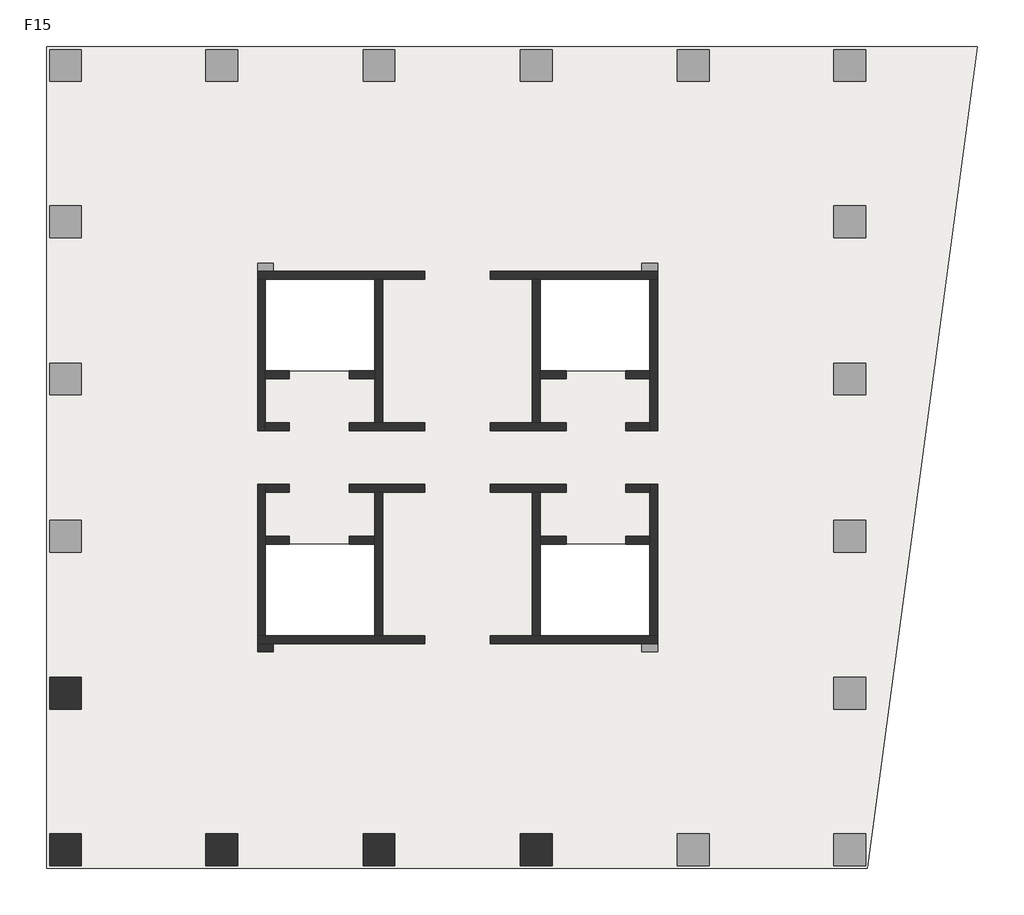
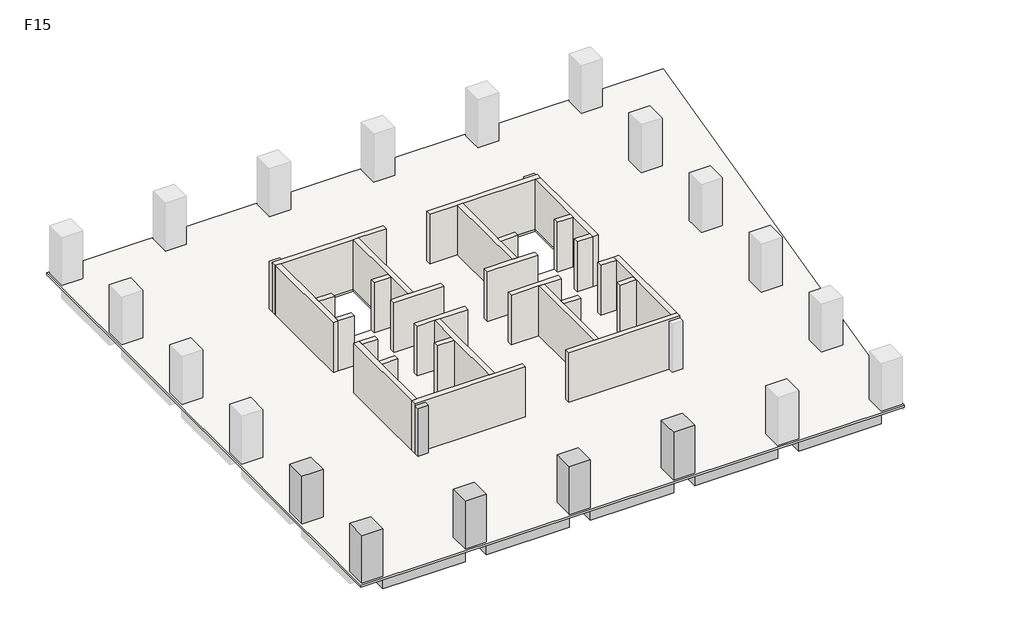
# One storey, part 1 of 2: 28 walls, 6 columns, 5 beams, 1 slab.
"""IFC4 building model written with IfcOpenShell, lengths in millimetres."""

from ifc_helpers import new_model, si_unit, frame, origin, place, context, project, spatial, polyline, outline, extrude, faceted_brep, element, save

model = new_model("IFC4")

# Units and contexts
model_context = context("Model", 3, world=origin())
ifc_project = project(units=[si_unit("LENGTHUNIT", "METRE", prefix="MILLI")], contexts=[model_context])

# Site, building, storey
site = spatial("IfcSite", under=ifc_project)
building = spatial("IfcBuilding", under=site)
storey = spatial("IfcBuildingStorey", under=building, Name="F15", Elevation=60000.0)

# Beams
placement = place(None, origin())
element("IfcBeam", 1, ObjectType="混凝土 - 矩形梁 : KL(5)-800x1000", at=placement, inside=storey, context=model_context, shape_type="SweptSolid", body=[
    extrude(outline(polyline([(-12472.6742169, -13948.9501342), (-12472.6742169, -13148.9501342), (-6222.6742169, -13148.9501342), (-6222.6742169, -13948.9501342), (-12472.6742169, -13948.9501342)])), frame((0.0, 0.0, 59000.0), z_axis=(0.0, 0.0, 1.0), x_axis=(1.0, 0.0, 0.0)), (0.0, 0.0, 1.0), 840.0),
    extrude(outline(polyline([(25327.3257831, -13148.9501342), (25327.3257831, -13948.9501342), (19077.3257831, -13948.9501342), (19077.3257831, -13148.9501342), (25327.3257831, -13148.9501342)])), frame((0.0, 0.0, 59000.0), z_axis=(0.0, 0.0, 1.0), x_axis=(1.0, 0.0, 0.0)), (0.0, 0.0, 1.0), 840.0),
    extrude(outline(polyline([(-4622.6742169, -13948.9501342), (-4622.6742169, -13148.9501342), (1677.3257831, -13148.9501342), (1677.3257831, -13948.9501342), (-4622.6742169, -13948.9501342)])), frame((0.0, 0.0, 59000.0), z_axis=(0.0, 0.0, 1.0), x_axis=(1.0, 0.0, 0.0)), (0.0, 0.0, 1.0), 840.0),
    extrude(outline(polyline([(3277.3257831, -13948.9501342), (3277.3257831, -13148.9501342), (9577.3257831, -13148.9501342), (9577.3257831, -13948.9501342), (3277.3257831, -13948.9501342)])), frame((0.0, 0.0, 59000.0), z_axis=(0.0, 0.0, 1.0), x_axis=(1.0, 0.0, 0.0)), (0.0, 0.0, 1.0), 840.0),
    extrude(outline(polyline([(11177.3257831, -13948.9501342), (11177.3257831, -13148.9501342), (17477.3257831, -13148.9501342), (17477.3257831, -13948.9501342), (11177.3257831, -13948.9501342)])), frame((0.0, 0.0, 59000.0), z_axis=(0.0, 0.0, 1.0), x_axis=(1.0, 0.0, 0.0)), (0.0, 0.0, 1.0), 840.0),
])
element("IfcBeam", 2, ObjectType="混凝土 - 矩形梁 : L1-800x500", at=placement, inside=storey, context=model_context, shape_type="Brep", body=[
    faceted_brep([(-12472.6742169, -5512.1353397, 59500.0), (-3746.9473979, -3341.556529, 59500.0), (-3173.6696907, -3198.9501342, 59500.0), (-3173.6696907, -3198.9501342, 59840.0), (-3746.9473979, -3341.556529, 59840.0), (-12472.6742169, -5512.1353397, 59840.0), (-3622.6742169, -3198.9501342, 59500.0), (-12472.6742169, -4687.7549784, 59500.0), (-3622.6742169, -2486.2624411, 59500.0), (-3622.6742169, -2798.9501342, 59500.0), (-12472.6742169, -4687.7549784, 59840.0), (-3622.6742169, -2486.2624411, 59840.0), (-3622.6742169, -3198.9501342, 59840.0)], [[[0, 1, 2, 3, 4, 5]], [[6, 2, 1, 0, 7, 8, 9]], [[8, 7, 10, 11]], [[2, 6, 12, 3]], [[9, 8, 11, 12, 6]], [[7, 0, 5, 10]], [[5, 4, 3, 12, 11, 10]]]),
])
element("IfcBeam", 3, ObjectType="混凝土 - 矩形梁 : L1-800x500", at=placement, inside=storey, context=model_context, shape_type="SweptSolid", body=[
    extrude(outline(polyline([(-3746.9473979, -3341.556529), (-3173.6696907, -3198.9501342), (-2898.7618154, -3198.9501342), (-4843.6893517, -12348.9501342), (-5661.5624638, -12348.9501342), (-3746.9473979, -3341.556529)])), frame((0.0, 0.0, 59500.0), z_axis=(0.0, 0.0, 1.0), x_axis=(1.0, 0.0, 0.0)), (0.0, 0.0, 1.0), 340.0),
])
element("IfcBeam", 4, ObjectType="混凝土 - 矩形梁 : L1-800x500", at=placement, inside=storey, context=model_context, shape_type="SweptSolid", body=[
    extrude(outline(polyline([(2877.3257831, -12348.9501342), (2077.3257831, -12348.9501342), (2077.3257831, -2798.9501342), (2877.3257831, -2798.9501342), (2877.3257831, -12348.9501342)])), frame((0.0, 0.0, 59500.0), z_axis=(0.0, 0.0, 1.0), x_axis=(1.0, 0.0, 0.0)), (0.0, 0.0, 1.0), 340.0),
])
element("IfcBeam", 5, ObjectType="混凝土 - 矩形梁 : L1-800x500", at=placement, inside=storey, context=model_context, shape_type="SweptSolid", body=[
    extrude(outline(polyline([(10777.3257831, -12348.9501342), (9977.3257831, -12348.9501342), (9977.3257831, -2798.9501342), (10777.3257831, -2798.9501342), (10777.3257831, -12348.9501342)])), frame((0.0, 0.0, 59500.0), z_axis=(0.0, 0.0, 1.0), x_axis=(1.0, 0.0, 0.0)), (0.0, 0.0, 1.0), 340.0),
])

# Columns
element("IfcColumn", 6, ObjectType="混凝土 - 矩形 - 柱 : Z1-1600x1600", at=placement, inside=storey, context=model_context, shape_type="Brep", body=[
    faceted_brep([(-12472.6742169, -4498.9501342, 60000.0), (-12472.6742169, -6098.9501342, 60000.0), (-14072.6742169, -6098.9501342, 60000.0), (-14072.6742169, -4498.9501342, 60000.0), (-12472.6742169, -4498.9501342, 63840.0), (-12472.6742169, -6098.9501342, 63840.0), (-13272.6742169, -6098.9501342, 63840.0), (-14072.6742169, -6098.9501342, 63840.0), (-14072.6742169, -6098.9501342, 63000.0), (-14072.6742169, -4498.9501342, 63840.0), (-14072.6742169, -4498.9501342, 63000.0), (-13272.6742169, -4498.9501342, 63840.0)], [[[0, 1, 2, 3]], [[1, 0, 4, 5]], [[2, 1, 5, 6, 7, 8]], [[3, 2, 8, 7, 9, 10]], [[0, 3, 10, 9, 11, 4]], [[5, 4, 11, 9, 7, 6]]]),
])
element("IfcColumn", 7, ObjectType="混凝土 - 矩形 - 柱 : Z1-1600x1600", at=placement, inside=storey, context=model_context, shape_type="SweptSolid", body=[
    extrude(outline(polyline([(-12472.6742169, -12348.9501342), (-12472.6742169, -13948.9501342), (-14072.6742169, -13948.9501342), (-14072.6742169, -12348.9501342), (-12472.6742169, -12348.9501342)])), frame((0.0, 0.0, 60000.0), z_axis=(0.0, 0.0, 1.0), x_axis=(1.0, 0.0, 0.0)), (0.0, 0.0, 1.0), 3840.0),
])
element("IfcColumn", 8, ObjectType="混凝土 - 矩形 - 柱 : Z1-1600x1600", at=placement, inside=storey, context=model_context, shape_type="Brep", body=[
    faceted_brep([(-4622.6742169, -12348.9501342, 60000.0), (-4622.6742169, -13948.9501342, 60000.0), (-6222.6742169, -13948.9501342, 60000.0), (-6222.6742169, -12348.9501342, 60000.0), (-4622.6742169, -12348.9501342, 63840.0), (-4622.6742169, -13148.9501342, 63840.0), (-4622.6742169, -13948.9501342, 63840.0), (-4622.6742169, -13948.9501342, 63000.0), (-6222.6742169, -13948.9501342, 63840.0), (-6222.6742169, -13948.9501342, 63000.0), (-6222.6742169, -13148.9501342, 63840.0), (-6222.6742169, -12348.9501342, 63840.0)], [[[0, 1, 2, 3]], [[1, 0, 4, 5, 6, 7]], [[2, 1, 7, 6, 8, 9]], [[3, 2, 9, 8, 10, 11]], [[0, 3, 11, 4]], [[6, 5, 4, 11, 10, 8]]]),
])
element("IfcColumn", 9, ObjectType="混凝土 - 矩形 - 柱 : Z1-1600x1600", at=placement, inside=storey, context=model_context, shape_type="Brep", body=[
    faceted_brep([(3277.3257831, -12348.9501342, 60000.0), (3277.3257831, -13948.9501342, 60000.0), (1677.3257831, -13948.9501342, 60000.0), (1677.3257831, -12348.9501342, 60000.0), (3277.3257831, -12348.9501342, 63840.0), (3277.3257831, -13148.9501342, 63840.0), (3277.3257831, -13948.9501342, 63840.0), (3277.3257831, -13948.9501342, 63000.0), (1677.3257831, -13948.9501342, 63840.0), (1677.3257831, -13948.9501342, 63000.0), (1677.3257831, -13148.9501342, 63840.0), (1677.3257831, -12348.9501342, 63840.0)], [[[0, 1, 2, 3]], [[1, 0, 4, 5, 6, 7]], [[2, 1, 7, 6, 8, 9]], [[3, 2, 9, 8, 10, 11]], [[0, 3, 11, 4]], [[6, 5, 4, 11, 10, 8]]]),
])
element("IfcColumn", 10, ObjectType="混凝土 - 矩形 - 柱 : Z1-1600x1600", at=placement, inside=storey, context=model_context, shape_type="Brep", body=[
    faceted_brep([(11177.3257831, -12348.9501342, 60000.0), (11177.3257831, -13948.9501342, 60000.0), (9577.3257831, -13948.9501342, 60000.0), (9577.3257831, -12348.9501342, 60000.0), (11177.3257831, -12348.9501342, 63840.0), (11177.3257831, -13148.9501342, 63840.0), (11177.3257831, -13948.9501342, 63840.0), (11177.3257831, -13948.9501342, 63000.0), (9577.3257831, -13948.9501342, 63840.0), (9577.3257831, -13948.9501342, 63000.0), (9577.3257831, -13148.9501342, 63840.0), (9577.3257831, -12348.9501342, 63840.0)], [[[0, 1, 2, 3]], [[1, 0, 4, 5, 6, 7]], [[2, 1, 7, 6, 8, 9]], [[3, 2, 9, 8, 10, 11]], [[0, 3, 11, 4]], [[6, 5, 4, 11, 10, 8]]]),
])
element("IfcColumn", 11, ObjectType="混凝土 - 矩形 - 柱 : Z2-800x800", at=placement, inside=storey, context=model_context, shape_type="SweptSolid", body=[
    extrude(outline(polyline([(-2822.6742169, -3198.9501342), (-3622.6742169, -3198.9501342), (-3622.6742169, -2798.9501342), (-2822.6742169, -2798.9501342), (-2822.6742169, -3198.9501342)])), frame((0.0, 0.0, 60000.0), z_axis=(0.0, 0.0, 1.0), x_axis=(1.0, 0.0, 0.0)), (0.0, 0.0, 1.0), 3840.0),
])

# Slab
element("IfcSlab", 12, ObjectType="LB-160", at=placement, inside=storey, context=model_context, shape_type="Brep", body=[
    faceted_brep([(32549.4477343, 27201.0498658, 59840.0), (32422.0087099, 26251.0498658, 59840.0), (27029.3257831, -13948.9501342, 59840.0), (27011.0393465, -14085.2672073, 59840.0), (-14222.6742169, -14085.2672073, 59840.0), (-14222.6742169, 27201.0498658, 59840.0), (2277.3257831, 15501.0498658, 59840.0), (-3222.6742169, 15501.0498658, 59840.0), (-3222.6742169, 10901.0498658, 59840.0), (2277.3257831, 10901.0498658, 59840.0), (2277.3257831, 2201.0498658, 59840.0), (-3222.6742169, 2201.0498658, 59840.0), (-3222.6742169, -2398.9501342, 59840.0), (2277.3257831, -2398.9501342, 59840.0), (16077.3257831, 2201.0498658, 59840.0), (10577.3257831, 2201.0498658, 59840.0), (10577.3257831, -2398.9501342, 59840.0), (16077.3257831, -2398.9501342, 59840.0), (16077.3257831, 15501.0498658, 59840.0), (10577.3257831, 15501.0498658, 59840.0), (10577.3257831, 10901.0498658, 59840.0), (16077.3257831, 10901.0498658, 59840.0), (32549.4477343, 27201.0498658, 60000.0), (-14222.6742169, 27201.0498658, 60000.0), (-14222.6742169, -14085.2672073, 60000.0), (27011.0393465, -14085.2672073, 60000.0), (2277.3257831, 15501.0498658, 60000.0), (2277.3257831, 10901.0498658, 60000.0), (-3222.6742169, 10901.0498658, 60000.0), (-3222.6742169, 15501.0498658, 60000.0), (2277.3257831, 2201.0498658, 60000.0), (2277.3257831, -2398.9501342, 60000.0), (-3222.6742169, -2398.9501342, 60000.0), (-3222.6742169, 2201.0498658, 60000.0), (16077.3257831, 2201.0498658, 60000.0), (16077.3257831, -2398.9501342, 60000.0), (10577.3257831, -2398.9501342, 60000.0), (10577.3257831, 2201.0498658, 60000.0), (16077.3257831, 15501.0498658, 60000.0), (16077.3257831, 10901.0498658, 60000.0), (10577.3257831, 10901.0498658, 60000.0), (10577.3257831, 15501.0498658, 60000.0)], [[[0, 1, 2, 3, 4, 5], [6, 7, 8, 9], [10, 11, 12, 13], [14, 15, 16, 17], [18, 19, 20, 21]], [[22, 23, 24, 25], [26, 27, 28, 29], [30, 31, 32, 33], [34, 35, 36, 37], [38, 39, 40, 41]], [[3, 2, 1, 0, 22, 25]], [[4, 3, 25, 24]], [[5, 4, 24, 23]], [[0, 5, 23, 22]], [[7, 6, 26, 29]], [[8, 7, 29, 28]], [[9, 8, 28, 27]], [[6, 9, 27, 26]], [[11, 10, 30, 33]], [[12, 11, 33, 32]], [[13, 12, 32, 31]], [[10, 13, 31, 30]], [[15, 14, 34, 37]], [[16, 15, 37, 36]], [[17, 16, 36, 35]], [[14, 17, 35, 34]], [[19, 18, 38, 41]], [[20, 19, 41, 40]], [[21, 20, 40, 39]], [[18, 21, 39, 38]]]),
])

# Walls
element("IfcWall", 13, ObjectType="剪力墙-400", at=placement, inside=storey, context=model_context, shape_type="Brep", body=[
    faceted_brep([(-3622.6742169, 15501.0498658, 60000.0), (-3222.6742169, 15501.0498658, 60000.0), (2277.3257831, 15501.0498658, 60000.0), (2677.3257831, 15501.0498658, 60000.0), (4777.3257831, 15501.0498658, 60000.0), (4777.3257831, 15501.0498658, 64000.0), (2677.3257831, 15501.0498658, 64000.0), (2277.3257831, 15501.0498658, 64000.0), (-3222.6742169, 15501.0498658, 64000.0), (-3622.6742169, 15501.0498658, 64000.0), (-3622.6742169, 15901.0498658, 60000.0), (-3622.6742169, 15901.0498658, 63840.0), (-3622.6742169, 15901.0498658, 64000.0), (4777.3257831, 15901.0498658, 64000.0), (4777.3257831, 15901.0498658, 60000.0), (-2822.6742169, 15901.0498658, 60000.0)], [[[0, 1, 2, 3, 4, 5, 6, 7, 8, 9]], [[10, 11, 12, 13, 14, 15]], [[4, 3, 2, 1, 0, 10, 15, 14]], [[5, 4, 14, 13]], [[9, 8, 7, 6, 5, 13, 12]], [[0, 9, 12, 11, 10]]]),
])
element("IfcWall", 14, ObjectType="剪力墙-400", at=placement, inside=storey, context=model_context, shape_type="Brep", body=[
    faceted_brep([(2277.3257831, 15501.0498658, 60000.0), (2277.3257831, 10901.0498658, 60000.0), (2277.3257831, 10501.0498658, 60000.0), (2277.3257831, 8301.0498658, 60000.0), (2277.3257831, 8301.0498658, 64000.0), (2277.3257831, 10501.0498658, 64000.0), (2277.3257831, 10901.0498658, 64000.0), (2277.3257831, 15501.0498658, 64000.0), (2677.3257831, 15501.0498658, 60000.0), (2677.3257831, 15501.0498658, 64000.0), (2677.3257831, 8301.0498658, 64000.0), (2677.3257831, 8301.0498658, 60000.0)], [[[0, 1, 2, 3, 4, 5, 6, 7]], [[8, 9, 10, 11]], [[3, 2, 1, 0, 8, 11]], [[7, 6, 5, 4, 10, 9]], [[0, 7, 9, 8]], [[4, 3, 11, 10]]]),
])
element("IfcWall", 15, ObjectType="剪力墙-400", at=placement, inside=storey, context=model_context, shape_type="Brep", body=[
    faceted_brep([(-3622.6742169, 15501.0498658, 60000.0), (-3622.6742169, 7901.0498658, 60000.0), (-3622.6742169, 7901.0498658, 64000.0), (-3622.6742169, 15501.0498658, 64000.0), (-3222.6742169, 15501.0498658, 60000.0), (-3222.6742169, 15501.0498658, 64000.0), (-3222.6742169, 10901.0498658, 64000.0), (-3222.6742169, 10501.0498658, 64000.0), (-3222.6742169, 8301.0498658, 64000.0), (-3222.6742169, 7901.0498658, 64000.0), (-3222.6742169, 7901.0498658, 60000.0), (-3222.6742169, 8301.0498658, 60000.0), (-3222.6742169, 10501.0498658, 60000.0), (-3222.6742169, 10901.0498658, 60000.0)], [[[0, 1, 2, 3]], [[4, 5, 6, 7, 8, 9, 10, 11, 12, 13]], [[1, 0, 4, 13, 12, 11, 10]], [[3, 2, 9, 8, 7, 6, 5]], [[0, 3, 5, 4]], [[2, 1, 10, 9]]]),
])
element("IfcWall", 16, ObjectType="剪力墙-400", at=placement, inside=storey, context=model_context, shape_type="SweptSolid", body=[
    extrude(outline(polyline([(-2022.6742169, 7901.0498658), (-3222.6742169, 7901.0498658), (-3222.6742169, 8301.0498658), (-2022.6742169, 8301.0498658), (-2022.6742169, 7901.0498658)])), frame((0.0, 0.0, 60000.0), z_axis=(0.0, 0.0, 1.0), x_axis=(1.0, 0.0, 0.0)), (0.0, 0.0, 1.0), 4000.0),
])
element("IfcWall", 17, ObjectType="剪力墙-400", at=placement, inside=storey, context=model_context, shape_type="Brep", body=[
    faceted_brep([(977.3257831, 7901.0498658, 60000.0), (4777.3257831, 7901.0498658, 60000.0), (4777.3257831, 7901.0498658, 64000.0), (977.3257831, 7901.0498658, 64000.0), (977.3257831, 8301.0498658, 60000.0), (977.3257831, 8301.0498658, 64000.0), (2277.3257831, 8301.0498658, 64000.0), (2677.3257831, 8301.0498658, 64000.0), (4777.3257831, 8301.0498658, 64000.0), (4777.3257831, 8301.0498658, 60000.0), (2677.3257831, 8301.0498658, 60000.0), (2277.3257831, 8301.0498658, 60000.0)], [[[0, 1, 2, 3]], [[4, 5, 6, 7, 8, 9, 10, 11]], [[1, 0, 4, 11, 10, 9]], [[2, 1, 9, 8]], [[3, 2, 8, 7, 6, 5]], [[0, 3, 5, 4]]]),
])
element("IfcWall", 18, ObjectType="剪力墙-400", at=placement, inside=storey, context=model_context, shape_type="SweptSolid", body=[
    extrude(outline(polyline([(-2022.6742169, 10501.0498658), (-3222.6742169, 10501.0498658), (-3222.6742169, 10901.0498658), (-2022.6742169, 10901.0498658), (-2022.6742169, 10501.0498658)])), frame((0.0, 0.0, 60000.0), z_axis=(0.0, 0.0, 1.0), x_axis=(1.0, 0.0, 0.0)), (0.0, 0.0, 1.0), 4000.0),
])
element("IfcWall", 19, ObjectType="剪力墙-400", at=placement, inside=storey, context=model_context, shape_type="SweptSolid", body=[
    extrude(outline(polyline([(2277.3257831, 10501.0498658), (977.3257831, 10501.0498658), (977.3257831, 10901.0498658), (2277.3257831, 10901.0498658), (2277.3257831, 10501.0498658)])), frame((0.0, 0.0, 60000.0), z_axis=(0.0, 0.0, 1.0), x_axis=(1.0, 0.0, 0.0)), (0.0, 0.0, 1.0), 4000.0),
])
element("IfcWall", 20, ObjectType="剪力墙-400", at=placement, inside=storey, context=model_context, shape_type="Brep", body=[
    faceted_brep([(16477.3257831, 15901.0498658, 60000.0), (15677.3257831, 15901.0498658, 60000.0), (8077.3257831, 15901.0498658, 60000.0), (8077.3257831, 15901.0498658, 64000.0), (16477.3257831, 15901.0498658, 64000.0), (16477.3257831, 15901.0498658, 63840.0), (16477.3257831, 15501.0498658, 60000.0), (16477.3257831, 15501.0498658, 64000.0), (16077.3257831, 15501.0498658, 64000.0), (10577.3257831, 15501.0498658, 64000.0), (10177.3257831, 15501.0498658, 64000.0), (8077.3257831, 15501.0498658, 64000.0), (8077.3257831, 15501.0498658, 60000.0), (10177.3257831, 15501.0498658, 60000.0), (10577.3257831, 15501.0498658, 60000.0), (16077.3257831, 15501.0498658, 60000.0)], [[[0, 1, 2, 3, 4, 5]], [[6, 7, 8, 9, 10, 11, 12, 13, 14, 15]], [[2, 1, 0, 6, 15, 14, 13, 12]], [[3, 2, 12, 11]], [[4, 3, 11, 10, 9, 8, 7]], [[0, 5, 4, 7, 6]]]),
])
element("IfcWall", 21, ObjectType="剪力墙-400", at=placement, inside=storey, context=model_context, shape_type="Brep", body=[
    faceted_brep([(10177.3257831, 15501.0498658, 60000.0), (10177.3257831, 8301.0498658, 60000.0), (10177.3257831, 8301.0498658, 64000.0), (10177.3257831, 15501.0498658, 64000.0), (10577.3257831, 15501.0498658, 60000.0), (10577.3257831, 15501.0498658, 64000.0), (10577.3257831, 10901.0498658, 64000.0), (10577.3257831, 10501.0498658, 64000.0), (10577.3257831, 8301.0498658, 64000.0), (10577.3257831, 8301.0498658, 60000.0), (10577.3257831, 10501.0498658, 60000.0), (10577.3257831, 10901.0498658, 60000.0)], [[[0, 1, 2, 3]], [[4, 5, 6, 7, 8, 9, 10, 11]], [[1, 0, 4, 11, 10, 9]], [[3, 2, 8, 7, 6, 5]], [[0, 3, 5, 4]], [[2, 1, 9, 8]]]),
])
element("IfcWall", 22, ObjectType="剪力墙-400", at=placement, inside=storey, context=model_context, shape_type="Brep", body=[
    faceted_brep([(16077.3257831, 15501.0498658, 60000.0), (16077.3257831, 10901.0498658, 60000.0), (16077.3257831, 10501.0498658, 60000.0), (16077.3257831, 8301.0498658, 60000.0), (16077.3257831, 7901.0498658, 60000.0), (16077.3257831, 7901.0498658, 64000.0), (16077.3257831, 8301.0498658, 64000.0), (16077.3257831, 10501.0498658, 64000.0), (16077.3257831, 10901.0498658, 64000.0), (16077.3257831, 15501.0498658, 64000.0), (16477.3257831, 15501.0498658, 60000.0), (16477.3257831, 15501.0498658, 64000.0), (16477.3257831, 7901.0498658, 64000.0), (16477.3257831, 7901.0498658, 60000.0)], [[[0, 1, 2, 3, 4, 5, 6, 7, 8, 9]], [[10, 11, 12, 13]], [[4, 3, 2, 1, 0, 10, 13]], [[9, 8, 7, 6, 5, 12, 11]], [[0, 9, 11, 10]], [[5, 4, 13, 12]]]),
])
element("IfcWall", 23, ObjectType="剪力墙-400", at=placement, inside=storey, context=model_context, shape_type="SweptSolid", body=[
    extrude(outline(polyline([(14877.3257831, 8301.0498658), (16077.3257831, 8301.0498658), (16077.3257831, 7901.0498658), (14877.3257831, 7901.0498658), (14877.3257831, 8301.0498658)])), frame((0.0, 0.0, 60000.0), z_axis=(0.0, 0.0, 1.0), x_axis=(1.0, 0.0, 0.0)), (0.0, 0.0, 1.0), 4000.0),
])
element("IfcWall", 24, ObjectType="剪力墙-400", at=placement, inside=storey, context=model_context, shape_type="Brep", body=[
    faceted_brep([(11877.3257831, 8301.0498658, 60000.0), (10577.3257831, 8301.0498658, 60000.0), (10177.3257831, 8301.0498658, 60000.0), (8077.3257831, 8301.0498658, 60000.0), (8077.3257831, 8301.0498658, 64000.0), (10177.3257831, 8301.0498658, 64000.0), (10577.3257831, 8301.0498658, 64000.0), (11877.3257831, 8301.0498658, 64000.0), (11877.3257831, 7901.0498658, 60000.0), (11877.3257831, 7901.0498658, 64000.0), (8077.3257831, 7901.0498658, 64000.0), (8077.3257831, 7901.0498658, 60000.0)], [[[0, 1, 2, 3, 4, 5, 6, 7]], [[8, 9, 10, 11]], [[3, 2, 1, 0, 8, 11]], [[4, 3, 11, 10]], [[7, 6, 5, 4, 10, 9]], [[0, 7, 9, 8]]]),
])
element("IfcWall", 25, ObjectType="剪力墙-400", at=placement, inside=storey, context=model_context, shape_type="SweptSolid", body=[
    extrude(outline(polyline([(14877.3257831, 10901.0498658), (16077.3257831, 10901.0498658), (16077.3257831, 10501.0498658), (14877.3257831, 10501.0498658), (14877.3257831, 10901.0498658)])), frame((0.0, 0.0, 60000.0), z_axis=(0.0, 0.0, 1.0), x_axis=(1.0, 0.0, 0.0)), (0.0, 0.0, 1.0), 4000.0),
])
element("IfcWall", 26, ObjectType="剪力墙-400", at=placement, inside=storey, context=model_context, shape_type="SweptSolid", body=[
    extrude(outline(polyline([(10577.3257831, 10901.0498658), (11877.3257831, 10901.0498658), (11877.3257831, 10501.0498658), (10577.3257831, 10501.0498658), (10577.3257831, 10901.0498658)])), frame((0.0, 0.0, 60000.0), z_axis=(0.0, 0.0, 1.0), x_axis=(1.0, 0.0, 0.0)), (0.0, 0.0, 1.0), 4000.0),
])
element("IfcWall", 27, ObjectType="剪力墙-400", at=placement, inside=storey, context=model_context, shape_type="Brep", body=[
    faceted_brep([(-3622.6742169, -2798.9501342, 60000.0), (-2822.6742169, -2798.9501342, 60000.0), (4777.3257831, -2798.9501342, 60000.0), (4777.3257831, -2798.9501342, 64000.0), (-3622.6742169, -2798.9501342, 64000.0), (-3622.6742169, -2798.9501342, 63840.0), (-3622.6742169, -2398.9501342, 60000.0), (-3622.6742169, -2398.9501342, 64000.0), (-3222.6742169, -2398.9501342, 64000.0), (2277.3257831, -2398.9501342, 64000.0), (2677.3257831, -2398.9501342, 64000.0), (4777.3257831, -2398.9501342, 64000.0), (4777.3257831, -2398.9501342, 60000.0), (2677.3257831, -2398.9501342, 60000.0), (2277.3257831, -2398.9501342, 60000.0), (-3222.6742169, -2398.9501342, 60000.0)], [[[0, 1, 2, 3, 4, 5]], [[6, 7, 8, 9, 10, 11, 12, 13, 14, 15]], [[2, 1, 0, 6, 15, 14, 13, 12]], [[3, 2, 12, 11]], [[4, 3, 11, 10, 9, 8, 7]], [[0, 5, 4, 7, 6]]]),
])
element("IfcWall", 28, ObjectType="剪力墙-400", at=placement, inside=storey, context=model_context, shape_type="Brep", body=[
    faceted_brep([(2677.3257831, -2398.9501342, 60000.0), (2677.3257831, 4801.0498658, 60000.0), (2677.3257831, 4801.0498658, 64000.0), (2677.3257831, -2398.9501342, 64000.0), (2277.3257831, -2398.9501342, 60000.0), (2277.3257831, -2398.9501342, 64000.0), (2277.3257831, 2201.0498658, 64000.0), (2277.3257831, 2601.0498658, 64000.0), (2277.3257831, 4801.0498658, 64000.0), (2277.3257831, 4801.0498658, 60000.0), (2277.3257831, 2601.0498658, 60000.0), (2277.3257831, 2201.0498658, 60000.0)], [[[0, 1, 2, 3]], [[4, 5, 6, 7, 8, 9, 10, 11]], [[1, 0, 4, 11, 10, 9]], [[3, 2, 8, 7, 6, 5]], [[0, 3, 5, 4]], [[2, 1, 9, 8]]]),
])
element("IfcWall", 29, ObjectType="剪力墙-400", at=placement, inside=storey, context=model_context, shape_type="Brep", body=[
    faceted_brep([(-3222.6742169, -2398.9501342, 60000.0), (-3222.6742169, 2201.0498658, 60000.0), (-3222.6742169, 2601.0498658, 60000.0), (-3222.6742169, 4801.0498658, 60000.0), (-3222.6742169, 5201.0498658, 60000.0), (-3222.6742169, 5201.0498658, 64000.0), (-3222.6742169, 4801.0498658, 64000.0), (-3222.6742169, 2601.0498658, 64000.0), (-3222.6742169, 2201.0498658, 64000.0), (-3222.6742169, -2398.9501342, 64000.0), (-3622.6742169, -2398.9501342, 60000.0), (-3622.6742169, -2398.9501342, 64000.0), (-3622.6742169, 5201.0498658, 64000.0), (-3622.6742169, 5201.0498658, 60000.0)], [[[0, 1, 2, 3, 4, 5, 6, 7, 8, 9]], [[10, 11, 12, 13]], [[4, 3, 2, 1, 0, 10, 13]], [[9, 8, 7, 6, 5, 12, 11]], [[0, 9, 11, 10]], [[5, 4, 13, 12]]]),
])
element("IfcWall", 30, ObjectType="剪力墙-400", at=placement, inside=storey, context=model_context, shape_type="SweptSolid", body=[
    extrude(outline(polyline([(-2022.6742169, 4801.0498658), (-3222.6742169, 4801.0498658), (-3222.6742169, 5201.0498658), (-2022.6742169, 5201.0498658), (-2022.6742169, 4801.0498658)])), frame((0.0, 0.0, 60000.0), z_axis=(0.0, 0.0, 1.0), x_axis=(1.0, 0.0, 0.0)), (0.0, 0.0, 1.0), 4000.0),
])
element("IfcWall", 31, ObjectType="剪力墙-400", at=placement, inside=storey, context=model_context, shape_type="Brep", body=[
    faceted_brep([(977.3257831, 4801.0498658, 60000.0), (2277.3257831, 4801.0498658, 60000.0), (2677.3257831, 4801.0498658, 60000.0), (4777.3257831, 4801.0498658, 60000.0), (4777.3257831, 4801.0498658, 64000.0), (2677.3257831, 4801.0498658, 64000.0), (2277.3257831, 4801.0498658, 64000.0), (977.3257831, 4801.0498658, 64000.0), (977.3257831, 5201.0498658, 60000.0), (977.3257831, 5201.0498658, 64000.0), (4777.3257831, 5201.0498658, 64000.0), (4777.3257831, 5201.0498658, 60000.0)], [[[0, 1, 2, 3, 4, 5, 6, 7]], [[8, 9, 10, 11]], [[3, 2, 1, 0, 8, 11]], [[4, 3, 11, 10]], [[7, 6, 5, 4, 10, 9]], [[0, 7, 9, 8]]]),
])
element("IfcWall", 32, ObjectType="剪力墙-400", at=placement, inside=storey, context=model_context, shape_type="SweptSolid", body=[
    extrude(outline(polyline([(-2022.6742169, 2201.0498658), (-3222.6742169, 2201.0498658), (-3222.6742169, 2601.0498658), (-2022.6742169, 2601.0498658), (-2022.6742169, 2201.0498658)])), frame((0.0, 0.0, 60000.0), z_axis=(0.0, 0.0, 1.0), x_axis=(1.0, 0.0, 0.0)), (0.0, 0.0, 1.0), 4000.0),
])
element("IfcWall", 33, ObjectType="剪力墙-400", at=placement, inside=storey, context=model_context, shape_type="SweptSolid", body=[
    extrude(outline(polyline([(2277.3257831, 2201.0498658), (977.3257831, 2201.0498658), (977.3257831, 2601.0498658), (2277.3257831, 2601.0498658), (2277.3257831, 2201.0498658)])), frame((0.0, 0.0, 60000.0), z_axis=(0.0, 0.0, 1.0), x_axis=(1.0, 0.0, 0.0)), (0.0, 0.0, 1.0), 4000.0),
])
element("IfcWall", 34, ObjectType="剪力墙-400", at=placement, inside=storey, context=model_context, shape_type="Brep", body=[
    faceted_brep([(16477.3257831, -2398.9501342, 60000.0), (16077.3257831, -2398.9501342, 60000.0), (10577.3257831, -2398.9501342, 60000.0), (10177.3257831, -2398.9501342, 60000.0), (8077.3257831, -2398.9501342, 60000.0), (8077.3257831, -2398.9501342, 64000.0), (10177.3257831, -2398.9501342, 64000.0), (10577.3257831, -2398.9501342, 64000.0), (16077.3257831, -2398.9501342, 64000.0), (16477.3257831, -2398.9501342, 64000.0), (16477.3257831, -2798.9501342, 60000.0), (16477.3257831, -2798.9501342, 63840.0), (16477.3257831, -2798.9501342, 64000.0), (8077.3257831, -2798.9501342, 64000.0), (8077.3257831, -2798.9501342, 60000.0), (15677.3257831, -2798.9501342, 60000.0)], [[[0, 1, 2, 3, 4, 5, 6, 7, 8, 9]], [[10, 11, 12, 13, 14, 15]], [[4, 3, 2, 1, 0, 10, 15, 14]], [[5, 4, 14, 13]], [[9, 8, 7, 6, 5, 13, 12]], [[0, 9, 12, 11, 10]]]),
])
element("IfcWall", 35, ObjectType="剪力墙-400", at=placement, inside=storey, context=model_context, shape_type="Brep", body=[
    faceted_brep([(10577.3257831, -2398.9501342, 60000.0), (10577.3257831, 2201.0498658, 60000.0), (10577.3257831, 2601.0498658, 60000.0), (10577.3257831, 4801.0498658, 60000.0), (10577.3257831, 4801.0498658, 64000.0), (10577.3257831, 2601.0498658, 64000.0), (10577.3257831, 2201.0498658, 64000.0), (10577.3257831, -2398.9501342, 64000.0), (10177.3257831, -2398.9501342, 60000.0), (10177.3257831, -2398.9501342, 64000.0), (10177.3257831, 4801.0498658, 64000.0), (10177.3257831, 4801.0498658, 60000.0)], [[[0, 1, 2, 3, 4, 5, 6, 7]], [[8, 9, 10, 11]], [[3, 2, 1, 0, 8, 11]], [[7, 6, 5, 4, 10, 9]], [[0, 7, 9, 8]], [[4, 3, 11, 10]]]),
])
element("IfcWall", 36, ObjectType="剪力墙-400", at=placement, inside=storey, context=model_context, shape_type="Brep", body=[
    faceted_brep([(16477.3257831, -2398.9501342, 60000.0), (16477.3257831, 5201.0498658, 60000.0), (16477.3257831, 5201.0498658, 64000.0), (16477.3257831, -2398.9501342, 64000.0), (16077.3257831, -2398.9501342, 60000.0), (16077.3257831, -2398.9501342, 64000.0), (16077.3257831, 2201.0498658, 64000.0), (16077.3257831, 2601.0498658, 64000.0), (16077.3257831, 4801.0498658, 64000.0), (16077.3257831, 5201.0498658, 64000.0), (16077.3257831, 5201.0498658, 60000.0), (16077.3257831, 4801.0498658, 60000.0), (16077.3257831, 2601.0498658, 60000.0), (16077.3257831, 2201.0498658, 60000.0)], [[[0, 1, 2, 3]], [[4, 5, 6, 7, 8, 9, 10, 11, 12, 13]], [[1, 0, 4, 13, 12, 11, 10]], [[3, 2, 9, 8, 7, 6, 5]], [[0, 3, 5, 4]], [[2, 1, 10, 9]]]),
])
element("IfcWall", 37, ObjectType="剪力墙-400", at=placement, inside=storey, context=model_context, shape_type="SweptSolid", body=[
    extrude(outline(polyline([(14877.3257831, 5201.0498658), (16077.3257831, 5201.0498658), (16077.3257831, 4801.0498658), (14877.3257831, 4801.0498658), (14877.3257831, 5201.0498658)])), frame((0.0, 0.0, 60000.0), z_axis=(0.0, 0.0, 1.0), x_axis=(1.0, 0.0, 0.0)), (0.0, 0.0, 1.0), 4000.0),
])
element("IfcWall", 38, ObjectType="剪力墙-400", at=placement, inside=storey, context=model_context, shape_type="Brep", body=[
    faceted_brep([(11877.3257831, 5201.0498658, 60000.0), (8077.3257831, 5201.0498658, 60000.0), (8077.3257831, 5201.0498658, 64000.0), (11877.3257831, 5201.0498658, 64000.0), (11877.3257831, 4801.0498658, 60000.0), (11877.3257831, 4801.0498658, 64000.0), (10577.3257831, 4801.0498658, 64000.0), (10177.3257831, 4801.0498658, 64000.0), (8077.3257831, 4801.0498658, 64000.0), (8077.3257831, 4801.0498658, 60000.0), (10177.3257831, 4801.0498658, 60000.0), (10577.3257831, 4801.0498658, 60000.0)], [[[0, 1, 2, 3]], [[4, 5, 6, 7, 8, 9, 10, 11]], [[1, 0, 4, 11, 10, 9]], [[2, 1, 9, 8]], [[3, 2, 8, 7, 6, 5]], [[0, 3, 5, 4]]]),
])
element("IfcWall", 39, ObjectType="剪力墙-400", at=placement, inside=storey, context=model_context, shape_type="SweptSolid", body=[
    extrude(outline(polyline([(14877.3257831, 2601.0498658), (16077.3257831, 2601.0498658), (16077.3257831, 2201.0498658), (14877.3257831, 2201.0498658), (14877.3257831, 2601.0498658)])), frame((0.0, 0.0, 60000.0), z_axis=(0.0, 0.0, 1.0), x_axis=(1.0, 0.0, 0.0)), (0.0, 0.0, 1.0), 4000.0),
])
element("IfcWall", 40, ObjectType="剪力墙-400", at=placement, inside=storey, context=model_context, shape_type="SweptSolid", body=[
    extrude(outline(polyline([(10577.3257831, 2601.0498658), (11877.3257831, 2601.0498658), (11877.3257831, 2201.0498658), (10577.3257831, 2201.0498658), (10577.3257831, 2601.0498658)])), frame((0.0, 0.0, 60000.0), z_axis=(0.0, 0.0, 1.0), x_axis=(1.0, 0.0, 0.0)), (0.0, 0.0, 1.0), 4000.0),
])

save(model, "model.ifc")
